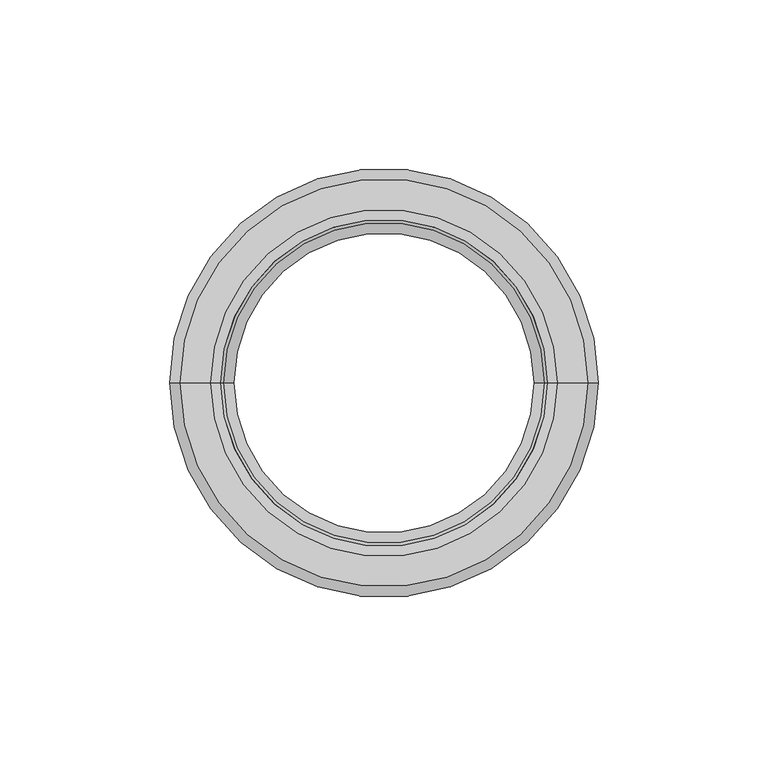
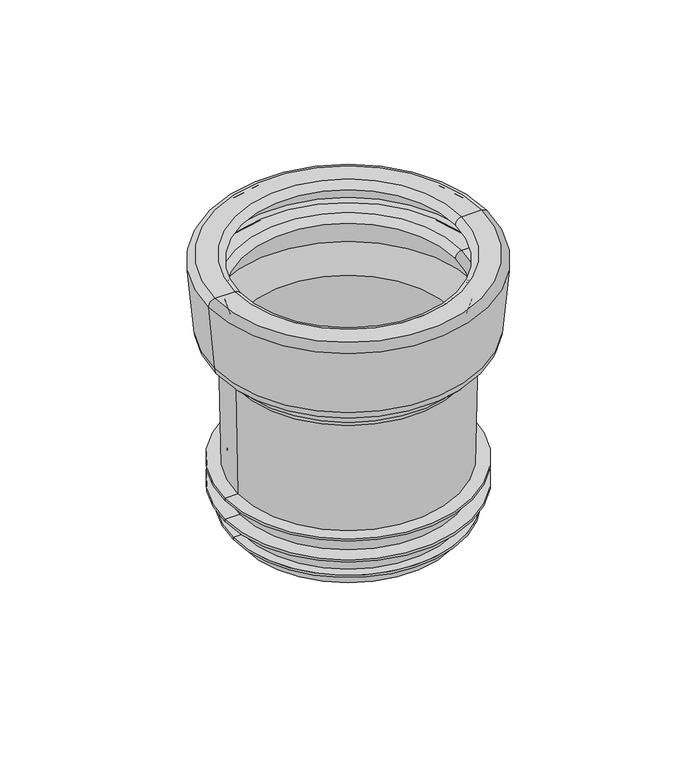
"""IFC4 building model written with IfcOpenShell, lengths in millimetres: sanitary terminal geometry, RSen_52_PIF_UN_closet connector no.3_wisa : closet connector_wisa_no 3 pergamon."""

from ifc_helpers import new_model, si_unit, point, frame, origin, place, context, project, spatial, polyline, circle_curve, ellipse_curve, trimmed, source, transform, mapped, element, save
from ifc_brep_helpers import plane_surface, cylinder_surface, revolved_surface, advanced_brep


def sanitary_terminal_92bf8bc1(model_context):
    return source(origin(), model_context, "Body", "AdvancedBrep", [
        advanced_brep(
        [(-49.8888889, 0.0, -97.5327471), (49.8888889, 0.0, -97.5327471), (48.8888889, 0.0, -106.5327471), (-48.8888889, 0.0, -106.5327471), (-55.75, 0.0, -97.5327471), (55.75, 0.0, -97.5327471), (-55.75, 0.0, -96.5327471), (55.75, 0.0, -96.5327471), (-50.0, 0.0, -96.5327471), (50.0, 0.0, -96.5327471), (-50.8865097, 0.0, -45.7446412), (50.8865097, 0.0, -45.7446412), (-51.7647324, 0.0, -43.675678), (51.7647324, 0.0, -43.675678), (-58.8486621, 0.0, -36.5917483), (58.8486621, 0.0, -36.5917483), (-60.5831896, 0.0, -32.8720421), (60.5831896, 0.0, -32.8720421), (-63.2146586, 0.0, -2.7942143), (63.2146586, 0.0, -2.7942143), (-60.2260745, 0.0, 0.4672529), (60.2260745, 0.0, 0.4672529), (-51.2172529, 0.0, 0.4672529), (51.2172529, 0.0, 0.4672529), (-48.25, 0.0, -2.5), (48.25, 0.0, -2.5), (-49.15, 0.0, -2.5), (49.15, 0.0, -2.5), (-51.65, 0.0, 0.0), (51.65, 0.0, 0.0), (-59.156112, 0.0, -0.3933787), (59.156112, 0.0, -0.3933787), (-60.5719001, 0.0, -2.0220566), (60.5719001, 0.0, -2.0220566), (-59.5096631, 0.0, -14.1634807), (59.5096631, 0.0, -14.1634807), (-58.0153711, 0.0, -15.5327471), (58.0153711, 0.0, -15.5327471), (-51.2172529, 0.0, -15.5327471), (51.2172529, 0.0, -15.5327471), (-48.25, 0.0, -18.5), (48.25, 0.0, -18.5), (-49.15, 0.0, -18.5), (49.15, 0.0, -18.5), (-51.65, 0.0, -16.0), (51.65, 0.0, -16.0), (-57.7197419, 0.0, -16.3181017), (57.7197419, 0.0, -16.3181017), (-59.1747228, 0.0, -17.9918658), (59.1747228, 0.0, -17.9918658), (-57.788781, 0.0, -33.8332528), (57.788781, 0.0, -33.8332528), (-48.2271129, 0.0, -43.3949209), (48.2271129, 0.0, -43.3949209), (-47.3026088, 0.0, -96.3597283), (47.3026088, 0.0, -96.3597283), (-44.2833845, 0.0, -123.5327471), (44.2833845, 0.0, -123.5327471), (-47.0, 0.0, -123.5327471), (47.0, 0.0, -123.5327471), (-47.6666667, 0.0, -117.5327471), (47.6666667, 0.0, -117.5327471), (-52.0, 0.0, -117.5327471), (52.0, 0.0, -117.5327471), (-52.0, 0.0, -116.5327471), (52.0, 0.0, -116.5327471), (-47.7777778, 0.0, -116.5327471), (47.7777778, 0.0, -116.5327471), (-48.7777778, 0.0, -107.5327471), (48.7777778, 0.0, -107.5327471), (-55.75, 0.0, -107.5327471), (55.75, 0.0, -107.5327471), (-55.75, 0.0, -106.5327471), (55.75, 0.0, -106.5327471)],
        [
            (0, 1, circle_curve(frame((0.0, 0.0, -97.5327471), z_axis=(0.0, 0.0, -1.0), x_axis=(1.0, 0.0, 0.0)), 49.8888889)),
            (1, 2),
            (2, 3, circle_curve(frame((0.0, 0.0, -106.5327471), z_axis=(0.0, 0.0, 1.0), x_axis=(1.0, 0.0, 0.0)), 48.8888889)),
            (3, 0),
            (1, 0, circle_curve(frame((0.0, 0.0, -97.5327471), z_axis=(0.0, 0.0, -1.0), x_axis=(1.0, 0.0, 0.0)), 49.8888889)),
            (3, 2, circle_curve(frame((0.0, 0.0, -106.5327471), z_axis=(0.0, 0.0, 1.0), x_axis=(1.0, 0.0, 0.0)), 48.8888889)),
            (4, 5, circle_curve(frame((0.0, 0.0, -97.5327471), z_axis=(0.0, 0.0, -1.0), x_axis=(1.0, 0.0, 0.0)), 55.75)),
            (5, 1),
            (0, 4),
            (5, 4, circle_curve(frame((0.0, 0.0, -97.5327471), z_axis=(0.0, 0.0, -1.0), x_axis=(1.0, 0.0, 0.0)), 55.75)),
            (6, 7, circle_curve(frame((0.0, 0.0, -96.5327471), z_axis=(0.0, 0.0, -1.0), x_axis=(1.0, 0.0, 0.0)), 55.75)),
            (7, 5),
            (4, 6),
            (7, 6, circle_curve(frame((0.0, 0.0, -96.5327471), z_axis=(0.0, 0.0, -1.0), x_axis=(1.0, 0.0, 0.0)), 55.75)),
            (8, 9, circle_curve(frame((0.0, 0.0, -96.5327471), z_axis=(0.0, 0.0, -1.0), x_axis=(1.0, 0.0, 0.0)), 50.0)),
            (9, 7),
            (6, 8),
            (9, 8, circle_curve(frame((0.0, 0.0, -96.5327471), z_axis=(0.0, 0.0, -1.0), x_axis=(1.0, 0.0, 0.0)), 50.0)),
            (10, 11, circle_curve(frame((0.0, 0.0, -45.7446412), z_axis=(0.0, 0.0, -1.0), x_axis=(1.0, 0.0, 0.0)), 50.8865097)),
            (11, 9),
            (8, 10),
            (11, 10, circle_curve(frame((0.0, 0.0, -45.7446412), z_axis=(0.0, 0.0, -1.0), x_axis=(1.0, 0.0, 0.0)), 50.8865097)),
            (12, 13, circle_curve(frame((0.0, 0.0, -43.675678), z_axis=(0.0, 0.0, -1.0), x_axis=(1.0, 0.0, 0.0)), 51.7647324)),
            (13, 11, circle_curve(frame((53.8860528, 0.0, -45.7969984), z_axis=(0.0, -1.0, 0.0), x_axis=(1.0, 0.0, 0.0)), 3.0)),
            (10, 12, circle_curve(frame((-53.8860528, 0.0, -45.7969984), z_axis=(0.0, -1.0, 0.0), x_axis=(-1.0, 0.0, 0.0)), 3.0)),
            (13, 12, circle_curve(frame((0.0, 0.0, -43.675678), z_axis=(0.0, 0.0, -1.0), x_axis=(1.0, 0.0, 0.0)), 51.7647324)),
            (14, 15, circle_curve(frame((0.0, 0.0, -36.5917483), z_axis=(0.0, 0.0, -1.0), x_axis=(1.0, 0.0, 0.0)), 58.8486621)),
            (15, 13),
            (12, 14),
            (15, 14, circle_curve(frame((0.0, 0.0, -36.5917483), z_axis=(0.0, 0.0, -1.0), x_axis=(1.0, 0.0, 0.0)), 58.8486621)),
            (16, 17, circle_curve(frame((0.0, 0.0, -32.8720421), z_axis=(0.0, 0.0, -1.0), x_axis=(1.0, 0.0, 0.0)), 60.5831896)),
            (17, 15, circle_curve(frame((54.6060214, 0.0, -32.3491077), z_axis=(0.0, 1.0, 0.0), x_axis=(1.0, 0.0, 0.0)), 6.0)),
            (14, 16, circle_curve(frame((-54.6060214, 0.0, -32.3491077), z_axis=(0.0, 1.0, 0.0), x_axis=(-1.0, 0.0, 0.0)), 6.0)),
            (17, 16, circle_curve(frame((0.0, 0.0, -32.8720421), z_axis=(0.0, 0.0, -1.0), x_axis=(1.0, 0.0, 0.0)), 60.5831896)),
            (18, 19, circle_curve(frame((0.0, 0.0, -2.7942143), z_axis=(0.0, 0.0, -1.0), x_axis=(1.0, 0.0, 0.0)), 63.2146586)),
            (19, 17),
            (16, 18),
            (19, 18, circle_curve(frame((0.0, 0.0, -2.7942143), z_axis=(0.0, 0.0, -1.0), x_axis=(1.0, 0.0, 0.0)), 63.2146586)),
            (20, 21, circle_curve(frame((0.0, 0.0, 0.4672529), z_axis=(0.0, 0.0, -1.0), x_axis=(1.0, 0.0, 0.0)), 60.2260745)),
            (21, 19, circle_curve(frame((60.2260745, 0.0, -2.5327471), z_axis=(0.0, 1.0, 0.0), x_axis=(1.0, 0.0, 0.0)), 3.0)),
            (18, 20, circle_curve(frame((-60.2260745, 0.0, -2.5327471), z_axis=(0.0, 1.0, 0.0), x_axis=(-1.0, 0.0, 0.0)), 3.0)),
            (21, 20, circle_curve(frame((0.0, 0.0, 0.4672529), z_axis=(0.0, 0.0, -1.0), x_axis=(1.0, 0.0, 0.0)), 60.2260745)),
            (22, 23, circle_curve(frame((0.0, 0.0, 0.4672529), z_axis=(0.0, 0.0, -1.0), x_axis=(1.0, 0.0, 0.0)), 51.2172529)),
            (23, 21),
            (20, 22),
            (23, 22, circle_curve(frame((0.0, 0.0, 0.4672529), z_axis=(0.0, 0.0, -1.0), x_axis=(1.0, 0.0, 0.0)), 51.2172529)),
            (24, 25, circle_curve(frame((0.0, 0.0, -2.5), z_axis=(0.0, 0.0, -1.0), x_axis=(1.0, 0.0, 0.0)), 48.25)),
            (25, 23, circle_curve(frame((51.2172529, 0.0, -2.5), z_axis=(0.0, 1.0, 0.0), x_axis=(1.0, 0.0, 0.0)), 2.9672529)),
            (22, 24, circle_curve(frame((-51.2172529, 0.0, -2.5), z_axis=(0.0, 1.0, 0.0), x_axis=(-1.0, 0.0, 0.0)), 2.9672529)),
            (25, 24, circle_curve(frame((0.0, 0.0, -2.5), z_axis=(0.0, 0.0, -1.0), x_axis=(1.0, 0.0, 0.0)), 48.25)),
            (26, 27, circle_curve(frame((0.0, 0.0, -2.5), z_axis=(0.0, 0.0, -1.0), x_axis=(1.0, 0.0, 0.0)), 49.15)),
            (27, 25),
            (24, 26),
            (27, 26, circle_curve(frame((0.0, 0.0, -2.5), z_axis=(0.0, 0.0, -1.0), x_axis=(1.0, 0.0, 0.0)), 49.15)),
            (28, 29, circle_curve(frame((0.0, 0.0, 0.0), z_axis=(0.0, 0.0, -1.0), x_axis=(1.0, 0.0, 0.0)), 51.65)),
            (29, 27, circle_curve(frame((51.65, 0.0, -2.5), z_axis=(0.0, -1.0, 0.0), x_axis=(1.0, 0.0, 0.0)), 2.5)),
            (26, 28, circle_curve(frame((-51.65, 0.0, -2.5), z_axis=(0.0, -1.0, 0.0), x_axis=(-1.0, 0.0, 0.0)), 2.5)),
            (29, 28, circle_curve(frame((0.0, 0.0, 0.0), z_axis=(0.0, 0.0, -1.0), x_axis=(1.0, 0.0, 0.0)), 51.65)),
            (30, 31, circle_curve(frame((0.0, 0.0, -0.3933787), z_axis=(0.0, 0.0, -1.0), x_axis=(1.0, 0.0, 0.0)), 59.156112)),
            (31, 29),
            (28, 30),
            (31, 30, circle_curve(frame((0.0, 0.0, -0.3933787), z_axis=(0.0, 0.0, -1.0), x_axis=(1.0, 0.0, 0.0)), 59.156112)),
            (32, 33, circle_curve(frame((0.0, 0.0, -2.0220566), z_axis=(0.0, 0.0, -1.0), x_axis=(1.0, 0.0, 0.0)), 60.5719001)),
            (33, 31, circle_curve(frame((59.077608, 0.0, -1.891323), z_axis=(0.0, -1.0, 0.0), x_axis=(1.0, 0.0, 0.0)), 1.5)),
            (30, 32, circle_curve(frame((-59.077608, 0.0, -1.891323), z_axis=(0.0, -1.0, 0.0), x_axis=(-1.0, 0.0, 0.0)), 1.5)),
            (33, 32, circle_curve(frame((0.0, 0.0, -2.0220566), z_axis=(0.0, 0.0, -1.0), x_axis=(1.0, 0.0, 0.0)), 60.5719001)),
            (34, 35, circle_curve(frame((0.0, 0.0, -14.1634807), z_axis=(0.0, 0.0, -1.0), x_axis=(1.0, 0.0, 0.0)), 59.5096631)),
            (35, 33),
            (32, 34),
            (35, 34, circle_curve(frame((0.0, 0.0, -14.1634807), z_axis=(0.0, 0.0, -1.0), x_axis=(1.0, 0.0, 0.0)), 59.5096631)),
            (36, 37, circle_curve(frame((0.0, 0.0, -15.5327471), z_axis=(0.0, 0.0, -1.0), x_axis=(1.0, 0.0, 0.0)), 58.0153711)),
            (37, 35, circle_curve(frame((58.0153711, 0.0, -14.0327471), z_axis=(0.0, -1.0, 0.0), x_axis=(1.0, 0.0, 0.0)), 1.5)),
            (34, 36, circle_curve(frame((-58.0153711, 0.0, -14.0327471), z_axis=(0.0, -1.0, 0.0), x_axis=(-1.0, 0.0, 0.0)), 1.5)),
            (37, 36, circle_curve(frame((0.0, 0.0, -15.5327471), z_axis=(0.0, 0.0, -1.0), x_axis=(1.0, 0.0, 0.0)), 58.0153711)),
            (38, 39, circle_curve(frame((0.0, 0.0, -15.5327471), z_axis=(0.0, 0.0, -1.0), x_axis=(1.0, 0.0, 0.0)), 51.2172529)),
            (39, 37),
            (36, 38),
            (39, 38, circle_curve(frame((0.0, 0.0, -15.5327471), z_axis=(0.0, 0.0, -1.0), x_axis=(1.0, 0.0, 0.0)), 51.2172529)),
            (40, 41, circle_curve(frame((0.0, 0.0, -18.5), z_axis=(0.0, 0.0, -1.0), x_axis=(1.0, 0.0, 0.0)), 48.25)),
            (41, 39, circle_curve(frame((51.2172529, 0.0, -18.5), z_axis=(0.0, 1.0, 0.0), x_axis=(1.0, 0.0, 0.0)), 2.9672529)),
            (38, 40, circle_curve(frame((-51.2172529, 0.0, -18.5), z_axis=(0.0, 1.0, 0.0), x_axis=(-1.0, 0.0, 0.0)), 2.9672529)),
            (41, 40, circle_curve(frame((0.0, 0.0, -18.5), z_axis=(0.0, 0.0, -1.0), x_axis=(1.0, 0.0, 0.0)), 48.25)),
            (42, 43, circle_curve(frame((0.0, 0.0, -18.5), z_axis=(0.0, 0.0, -1.0), x_axis=(1.0, 0.0, 0.0)), 49.15)),
            (43, 41),
            (40, 42),
            (43, 42, circle_curve(frame((0.0, 0.0, -18.5), z_axis=(0.0, 0.0, -1.0), x_axis=(1.0, 0.0, 0.0)), 49.15)),
            (44, 45, circle_curve(frame((0.0, 0.0, -16.0), z_axis=(0.0, 0.0, -1.0), x_axis=(1.0, 0.0, 0.0)), 51.65)),
            (45, 43, circle_curve(frame((51.65, 0.0, -18.5), z_axis=(0.0, -1.0, 0.0), x_axis=(1.0, 0.0, 0.0)), 2.5)),
            (42, 44, circle_curve(frame((-51.65, 0.0, -18.5), z_axis=(0.0, -1.0, 0.0), x_axis=(-1.0, 0.0, 0.0)), 2.5)),
            (45, 44, circle_curve(frame((0.0, 0.0, -16.0), z_axis=(0.0, 0.0, -1.0), x_axis=(1.0, 0.0, 0.0)), 51.65)),
            (46, 47, circle_curve(frame((0.0, 0.0, -16.3181017), z_axis=(0.0, 0.0, -1.0), x_axis=(1.0, 0.0, 0.0)), 57.7197419)),
            (47, 45),
            (44, 46),
            (47, 46, circle_curve(frame((0.0, 0.0, -16.3181017), z_axis=(0.0, 0.0, -1.0), x_axis=(1.0, 0.0, 0.0)), 57.7197419)),
            (48, 49, circle_curve(frame((0.0, 0.0, -17.9918658), z_axis=(0.0, 0.0, -1.0), x_axis=(1.0, 0.0, 0.0)), 59.1747228)),
            (49, 47, circle_curve(frame((57.6390648, 0.0, -17.8575131), z_axis=(0.0, -1.0, 0.0), x_axis=(1.0, 0.0, 0.0)), 1.541524)),
            (46, 48, circle_curve(frame((-57.6390648, 0.0, -17.8575131), z_axis=(0.0, -1.0, 0.0), x_axis=(-1.0, 0.0, 0.0)), 1.541524)),
            (49, 48, circle_curve(frame((0.0, 0.0, -17.9918658), z_axis=(0.0, 0.0, -1.0), x_axis=(1.0, 0.0, 0.0)), 59.1747228)),
            (50, 51, circle_curve(frame((0.0, 0.0, -33.8332528), z_axis=(0.0, 0.0, -1.0), x_axis=(1.0, 0.0, 0.0)), 57.788781)),
            (51, 49),
            (48, 50),
            (51, 50, circle_curve(frame((0.0, 0.0, -33.8332528), z_axis=(0.0, 0.0, -1.0), x_axis=(1.0, 0.0, 0.0)), 57.788781)),
            (52, 53, circle_curve(frame((0.0, 0.0, -43.3949209), z_axis=(0.0, 0.0, -1.0), x_axis=(1.0, 0.0, 0.0)), 48.2271129)),
            (53, 51),
            (50, 52),
            (53, 52, circle_curve(frame((0.0, 0.0, -43.3949209), z_axis=(0.0, 0.0, -1.0), x_axis=(1.0, 0.0, 0.0)), 48.2271129)),
            (54, 55, circle_curve(frame((0.0, 0.0, -96.3597283), z_axis=(0.0, 0.0, -1.0), x_axis=(1.0, 0.0, 0.0)), 47.3026088)),
            (55, 53),
            (52, 54),
            (55, 54, circle_curve(frame((0.0, 0.0, -96.3597283), z_axis=(0.0, 0.0, -1.0), x_axis=(1.0, 0.0, 0.0)), 47.3026088)),
            (56, 57, circle_curve(frame((0.0, 0.0, -123.5327471), z_axis=(0.0, 0.0, -1.0), x_axis=(1.0, 0.0, 0.0)), 44.2833845)),
            (57, 55),
            (54, 56),
            (57, 56, circle_curve(frame((0.0, 0.0, -123.5327471), z_axis=(0.0, 0.0, -1.0), x_axis=(1.0, 0.0, 0.0)), 44.2833845)),
            (58, 59, circle_curve(frame((0.0, 0.0, -123.5327471), z_axis=(0.0, 0.0, -1.0), x_axis=(1.0, 0.0, 0.0)), 47.0)),
            (59, 57),
            (56, 58),
            (59, 58, circle_curve(frame((0.0, 0.0, -123.5327471), z_axis=(0.0, 0.0, -1.0), x_axis=(1.0, 0.0, 0.0)), 47.0)),
            (60, 61, circle_curve(frame((0.0, 0.0, -117.5327471), z_axis=(0.0, 0.0, -1.0), x_axis=(1.0, 0.0, 0.0)), 47.6666667)),
            (61, 59),
            (58, 60),
            (61, 60, circle_curve(frame((0.0, 0.0, -117.5327471), z_axis=(0.0, 0.0, -1.0), x_axis=(1.0, 0.0, 0.0)), 47.6666667)),
            (62, 63, circle_curve(frame((0.0, 0.0, -117.5327471), z_axis=(0.0, 0.0, -1.0), x_axis=(1.0, 0.0, 0.0)), 52.0)),
            (63, 61),
            (60, 62),
            (63, 62, circle_curve(frame((0.0, 0.0, -117.5327471), z_axis=(0.0, 0.0, -1.0), x_axis=(1.0, 0.0, 0.0)), 52.0)),
            (64, 65, circle_curve(frame((0.0, 0.0, -116.5327471), z_axis=(0.0, 0.0, -1.0), x_axis=(1.0, 0.0, 0.0)), 52.0)),
            (65, 63),
            (62, 64),
            (65, 64, circle_curve(frame((0.0, 0.0, -116.5327471), z_axis=(0.0, 0.0, -1.0), x_axis=(1.0, 0.0, 0.0)), 52.0)),
            (66, 67, circle_curve(frame((0.0, 0.0, -116.5327471), z_axis=(0.0, 0.0, -1.0), x_axis=(1.0, 0.0, 0.0)), 47.7777778)),
            (67, 65),
            (64, 66),
            (67, 66, circle_curve(frame((0.0, 0.0, -116.5327471), z_axis=(0.0, 0.0, -1.0), x_axis=(1.0, 0.0, 0.0)), 47.7777778)),
            (68, 69, circle_curve(frame((0.0, 0.0, -107.5327471), z_axis=(0.0, 0.0, -1.0), x_axis=(1.0, 0.0, 0.0)), 48.7777778)),
            (69, 67),
            (66, 68),
            (69, 68, circle_curve(frame((0.0, 0.0, -107.5327471), z_axis=(0.0, 0.0, -1.0), x_axis=(1.0, 0.0, 0.0)), 48.7777778)),
            (70, 71, circle_curve(frame((0.0, 0.0, -107.5327471), z_axis=(0.0, 0.0, -1.0), x_axis=(1.0, 0.0, 0.0)), 55.75)),
            (71, 69),
            (68, 70),
            (71, 70, circle_curve(frame((0.0, 0.0, -107.5327471), z_axis=(0.0, 0.0, -1.0), x_axis=(1.0, 0.0, 0.0)), 55.75)),
            (72, 73, circle_curve(frame((0.0, 0.0, -106.5327471), z_axis=(0.0, 0.0, -1.0), x_axis=(1.0, 0.0, 0.0)), 55.75)),
            (73, 71),
            (70, 72),
            (73, 72, circle_curve(frame((0.0, 0.0, -106.5327471), z_axis=(0.0, 0.0, -1.0), x_axis=(1.0, 0.0, 0.0)), 55.75)),
            (2, 73),
            (72, 3),
        ],
        [
            revolved_surface(polyline([(48.8888889, 0.0, -106.5327471), (49.8888889, 0.0, -97.5327471)]), (0.0, 0.0, 0.4672529), (0.0, 0.0, 1.0)),
            plane_surface(frame((0.0, 0.0, -97.5327471), z_axis=(0.0, 0.0, -1.0), x_axis=(1.0, 0.0, 0.0))),
            cylinder_surface(frame((0.0, 0.0, 0.4672529), z_axis=(0.0, 0.0, 1.0), x_axis=(1.0, 0.0, 0.0)), 55.75),
            plane_surface(frame((0.0, 0.0, -96.5327471), z_axis=(0.0, 0.0, 1.0), x_axis=(1.0, 0.0, 0.0))),
            revolved_surface(polyline([(50.0, 0.0, -96.5327471), (50.8865097, 0.0, -45.7446412)]), (0.0, 0.0, 0.4672529), (0.0, 0.0, 1.0)),
            revolved_surface(trimmed(ellipse_curve(frame((53.8860528, 0.0, -45.7969984), z_axis=(0.0, 1.0, 0.0), x_axis=(1.0, 0.0, 0.0)), 3.0, 3.0), [point((50.8865097, 0.0, -45.7446412))], [point((51.7647324, 0.0, -43.675678))], True, "CARTESIAN"), (0.0, 0.0, 0.4672529), (0.0, 0.0, 1.0)),
            revolved_surface(polyline([(51.7647324, 0.0, -43.675678), (58.8486621, 0.0, -36.5917483)]), (0.0, 0.0, 0.4672529), (0.0, 0.0, 1.0)),
            revolved_surface(trimmed(ellipse_curve(frame((54.6060214, 0.0, -32.3491077), z_axis=(0.0, -1.0, 0.0), x_axis=(1.0, 0.0, 0.0)), 6.0, 6.0), [point((58.8486621, 0.0, -36.5917483))], [point((60.5831896, 0.0, -32.8720421))], True, "CARTESIAN"), (0.0, 0.0, 0.4672529), (0.0, 0.0, 1.0)),
            revolved_surface(polyline([(60.5831896, 0.0, -32.8720421), (63.2146586, 0.0, -2.7942143)]), (0.0, 0.0, 0.4672529), (0.0, 0.0, 1.0)),
            revolved_surface(trimmed(ellipse_curve(frame((60.2260745, 0.0, -2.5327471), z_axis=(0.0, -1.0, 0.0), x_axis=(1.0, 0.0, 0.0)), 3.0, 3.0), [point((63.2146586, 0.0, -2.7942143))], [point((60.2260745, 0.0, 0.4672529))], True, "CARTESIAN"), (0.0, 0.0, 0.4672529), (0.0, 0.0, 1.0)),
            plane_surface(frame((0.0, 0.0, 0.4672529), z_axis=(0.0, 0.0, 1.0), x_axis=(1.0, 0.0, 0.0))),
            revolved_surface(trimmed(ellipse_curve(frame((51.2172529, 0.0, -2.5), z_axis=(0.0, -1.0, 0.0), x_axis=(1.0, 0.0, 0.0)), 2.9672529, 2.9672529), [point((51.2172529, 0.0, 0.4672529))], [point((48.25, 0.0, -2.5))], True, "CARTESIAN"), (0.0, 0.0, 0.4672529), (0.0, 0.0, 1.0)),
            plane_surface(frame((0.0, 0.0, -2.5), z_axis=(0.0, 0.0, -1.0), x_axis=(1.0, 0.0, 0.0))),
            revolved_surface(trimmed(ellipse_curve(frame((51.65, 0.0, -2.5), z_axis=(0.0, 1.0, 0.0), x_axis=(1.0, 0.0, 0.0)), 2.5, 2.5), [point((49.15, 0.0, -2.5))], [point((51.65, 0.0, 0.0))], True, "CARTESIAN"), (0.0, 0.0, 0.4672529), (0.0, 0.0, 1.0)),
            revolved_surface(polyline([(51.65, 0.0, 0.0), (59.156112, 0.0, -0.3933787)]), (0.0, 0.0, 0.4672529), (0.0, 0.0, 1.0)),
            revolved_surface(trimmed(ellipse_curve(frame((59.077608, 0.0, -1.891323), z_axis=(0.0, 1.0, 0.0), x_axis=(1.0, 0.0, 0.0)), 1.5, 1.5), [point((59.156112, 0.0, -0.3933787))], [point((60.5719001, 0.0, -2.0220566))], True, "CARTESIAN"), (0.0, 0.0, 0.4672529), (0.0, 0.0, 1.0)),
            revolved_surface(polyline([(60.5719001, 0.0, -2.0220566), (59.5096631, 0.0, -14.1634807)]), (0.0, 0.0, 0.4672529), (0.0, 0.0, 1.0)),
            revolved_surface(trimmed(ellipse_curve(frame((58.0153711, 0.0, -14.0327471), z_axis=(0.0, 1.0, 0.0), x_axis=(1.0, 0.0, 0.0)), 1.5, 1.5), [point((59.5096631, 0.0, -14.1634807))], [point((58.0153711, 0.0, -15.5327471))], True, "CARTESIAN"), (0.0, 0.0, 0.4672529), (0.0, 0.0, 1.0)),
            plane_surface(frame((0.0, 0.0, -15.5327471), z_axis=(0.0, 0.0, 1.0), x_axis=(1.0, 0.0, 0.0))),
            revolved_surface(trimmed(ellipse_curve(frame((51.2172529, 0.0, -18.5), z_axis=(0.0, -1.0, 0.0), x_axis=(1.0, 0.0, 0.0)), 2.9672529, 2.9672529), [point((51.2172529, 0.0, -15.5327471))], [point((48.25, 0.0, -18.5))], True, "CARTESIAN"), (0.0, 0.0, 0.4672529), (0.0, 0.0, 1.0)),
            plane_surface(frame((0.0, 0.0, -18.5), z_axis=(0.0, 0.0, -1.0), x_axis=(1.0, 0.0, 0.0))),
            revolved_surface(trimmed(ellipse_curve(frame((51.65, 0.0, -18.5), z_axis=(0.0, 1.0, 0.0), x_axis=(1.0, 0.0, 0.0)), 2.5, 2.5), [point((49.15, 0.0, -18.5))], [point((51.65, 0.0, -16.0))], True, "CARTESIAN"), (0.0, 0.0, 0.4672529), (0.0, 0.0, 1.0)),
            revolved_surface(polyline([(51.65, 0.0, -16.0), (57.7197419, 0.0, -16.3181017)]), (0.0, 0.0, 0.4672529), (0.0, 0.0, 1.0)),
            revolved_surface(trimmed(ellipse_curve(frame((57.6390648, 0.0, -17.8575131), z_axis=(0.0, 1.0, 0.0), x_axis=(1.0, 0.0, 0.0)), 1.541524, 1.541524), [point((57.7197419, 0.0, -16.3181017))], [point((59.1747228, 0.0, -17.9918658))], True, "CARTESIAN"), (0.0, 0.0, 0.4672529), (0.0, 0.0, 1.0)),
            revolved_surface(polyline([(59.1747228, 0.0, -17.9918658), (57.788781, 0.0, -33.8332528)]), (0.0, 0.0, 0.4672529), (0.0, 0.0, 1.0)),
            revolved_surface(polyline([(57.788781, 0.0, -33.8332528), (48.2271129, 0.0, -43.3949209)]), (0.0, 0.0, 0.4672529), (0.0, 0.0, 1.0)),
            revolved_surface(polyline([(48.2271129, 0.0, -43.3949209), (47.3026088, 0.0, -96.3597283)]), (0.0, 0.0, 0.4672529), (0.0, 0.0, 1.0)),
            revolved_surface(polyline([(47.3026088, 0.0, -96.3597283), (44.2833845, 0.0, -123.5327471)]), (0.0, 0.0, 0.4672529), (0.0, 0.0, 1.0)),
            plane_surface(frame((0.0, 0.0, -123.5327471), z_axis=(0.0, 0.0, -1.0), x_axis=(1.0, 0.0, 0.0))),
            revolved_surface(polyline([(47.0, 0.0, -123.5327471), (47.6666667, 0.0, -117.5327471)]), (0.0, 0.0, 0.4672529), (0.0, 0.0, 1.0)),
            plane_surface(frame((0.0, 0.0, -117.5327471), z_axis=(0.0, 0.0, -1.0), x_axis=(1.0, 0.0, 0.0))),
            cylinder_surface(frame((0.0, 0.0, 0.4672529), z_axis=(0.0, 0.0, 1.0), x_axis=(1.0, 0.0, 0.0)), 52.0),
            plane_surface(frame((0.0, 0.0, -116.5327471), z_axis=(0.0, 0.0, 1.0), x_axis=(1.0, 0.0, 0.0))),
            revolved_surface(polyline([(47.7777778, 0.0, -116.5327471), (48.7777778, 0.0, -107.5327471)]), (0.0, 0.0, 0.4672529), (0.0, 0.0, 1.0)),
            plane_surface(frame((0.0, 0.0, -107.5327471), z_axis=(0.0, 0.0, -1.0), x_axis=(1.0, 0.0, 0.0))),
            plane_surface(frame((0.0, 0.0, -106.5327471), z_axis=(0.0, 0.0, 1.0), x_axis=(1.0, 0.0, 0.0))),
        ],
        [
            (0, [[1, 2, 3, 4]]),
            (0, [[5, -4, 6, -2]]),
            (1, [[7, 8, -1, 9]]),
            (1, [[10, -9, -5, -8]]),
            (2, [[11, 12, -7, 13]]),
            (2, [[14, -13, -10, -12]]),
            (3, [[15, 16, -11, 17]]),
            (3, [[18, -17, -14, -16]]),
            (4, [[19, 20, -15, 21]]),
            (4, [[22, -21, -18, -20]]),
            (5, [[23, 24, -19, 25]]),
            (5, [[26, -25, -22, -24]]),
            (6, [[27, 28, -23, 29]]),
            (6, [[30, -29, -26, -28]]),
            (7, [[31, 32, -27, 33]]),
            (7, [[34, -33, -30, -32]]),
            (8, [[35, 36, -31, 37]]),
            (8, [[38, -37, -34, -36]]),
            (9, [[39, 40, -35, 41]]),
            (9, [[42, -41, -38, -40]]),
            (10, [[43, 44, -39, 45]]),
            (10, [[46, -45, -42, -44]]),
            (11, [[47, 48, -43, 49]]),
            (11, [[50, -49, -46, -48]]),
            (12, [[51, 52, -47, 53]]),
            (12, [[54, -53, -50, -52]]),
            (13, [[55, 56, -51, 57]]),
            (13, [[58, -57, -54, -56]]),
            (14, [[59, 60, -55, 61]]),
            (14, [[62, -61, -58, -60]]),
            (15, [[63, 64, -59, 65]]),
            (15, [[66, -65, -62, -64]]),
            (16, [[67, 68, -63, 69]]),
            (16, [[70, -69, -66, -68]]),
            (17, [[71, 72, -67, 73]]),
            (17, [[74, -73, -70, -72]]),
            (18, [[75, 76, -71, 77]]),
            (18, [[78, -77, -74, -76]]),
            (19, [[79, 80, -75, 81]]),
            (19, [[82, -81, -78, -80]]),
            (20, [[83, 84, -79, 85]]),
            (20, [[86, -85, -82, -84]]),
            (21, [[87, 88, -83, 89]]),
            (21, [[90, -89, -86, -88]]),
            (22, [[91, 92, -87, 93]]),
            (22, [[94, -93, -90, -92]]),
            (23, [[95, 96, -91, 97]]),
            (23, [[98, -97, -94, -96]]),
            (24, [[99, 100, -95, 101]]),
            (24, [[102, -101, -98, -100]]),
            (25, [[103, 104, -99, 105]]),
            (25, [[106, -105, -102, -104]]),
            (26, [[107, 108, -103, 109]]),
            (26, [[110, -109, -106, -108]]),
            (27, [[111, 112, -107, 113]]),
            (27, [[114, -113, -110, -112]]),
            (28, [[115, 116, -111, 117]]),
            (28, [[118, -117, -114, -116]]),
            (29, [[119, 120, -115, 121]]),
            (29, [[122, -121, -118, -120]]),
            (30, [[123, 124, -119, 125]]),
            (30, [[126, -125, -122, -124]]),
            (31, [[127, 128, -123, 129]]),
            (31, [[130, -129, -126, -128]]),
            (32, [[131, 132, -127, 133]]),
            (32, [[134, -133, -130, -132]]),
            (33, [[135, 136, -131, 137]]),
            (33, [[138, -137, -134, -136]]),
            (34, [[139, 140, -135, 141]]),
            (34, [[142, -141, -138, -140]]),
            (2, [[143, 144, -139, 145]]),
            (2, [[146, -145, -142, -144]]),
            (35, [[-3, 147, -143, 148]]),
            (35, [[-6, -148, -146, -147]]),
        ],
    ),
    ])


if __name__ == "__main__":
    model = new_model("IFC4")
    model_context = context("Model", 3, world=origin())
    ifc_project = project(units=[si_unit("LENGTHUNIT", "METRE", prefix="MILLI")], contexts=[model_context])
    site = spatial("IfcSite", under=ifc_project)
    building = spatial("IfcBuilding", under=site)
    placement = place(None, origin())
    sanitary_terminal_shape = sanitary_terminal_92bf8bc1(model_context)
    element("IfcSanitaryTerminal", 1, ObjectType="RSen_52_PIF_UN_closet connector no.3_wisa : closet connector_wisa_no 3 pergamon", at=placement, inside=building, context=model_context, shape_type="MappedRepresentation", body=[
        mapped(sanitary_terminal_shape, transform((0.0, 0.0, 0.0), x_axis=(1.0, 0.0, 0.0), y_axis=(0.0, 1.0, 0.0), z_axis=(0.0, 0.0, 1.0))),
    ])
    save(model, "model.ifc")
